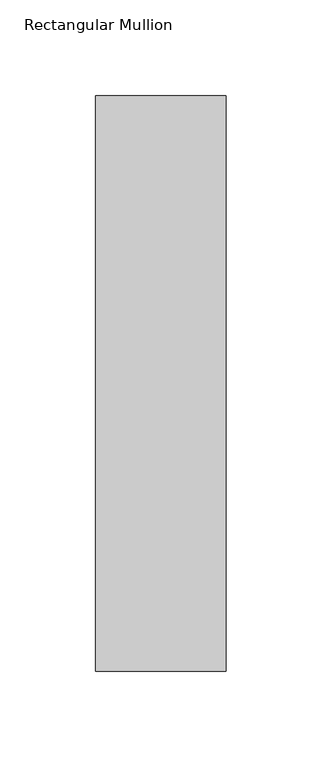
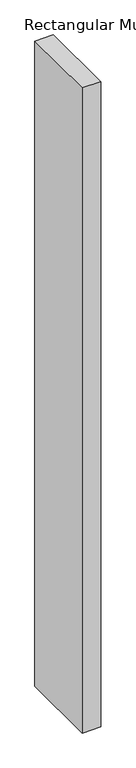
"""IFC4 building model written with IfcOpenShell, lengths in millimetres: member geometry, Rectangular Mullion : DucoSun Cubic Design louvre 300."""

from ifc_helpers import new_model, si_unit, frame, origin, place, context, project, spatial, polyline, outline, extrude, source, transform, mapped, element, save


def rectangular_mullion_085ac4ea(model_context):
    return source(origin(), model_context, "Body", "SweptSolid", [
        extrude(outline(polyline([(-68.0, 300.0), (0.0, 300.0), (0.0, 0.0), (-68.0, 0.0), (-68.0, 300.0)])), frame((0.0, 0.0, -2500.0), z_axis=(0.0, 0.0, 1.0), x_axis=(1.0, 0.0, 0.0)), (0.0, 0.0, 1.0), 2500.0),
    ])


if __name__ == "__main__":
    model = new_model("IFC4")
    model_context = context("Model", 3, world=origin())
    ifc_project = project(units=[si_unit("LENGTHUNIT", "METRE", prefix="MILLI")], contexts=[model_context])
    site = spatial("IfcSite", under=ifc_project)
    building = spatial("IfcBuilding", under=site)
    placement = place(None, origin())
    rectangular_mullion_shape = rectangular_mullion_085ac4ea(model_context)
    element("IfcMember", 1, ObjectType="Rectangular Mullion : DucoSun Cubic Design louvre 300", at=placement, inside=building, context=model_context, shape_type="MappedRepresentation", body=[
        mapped(rectangular_mullion_shape, transform((0.0, 0.0, 0.0), x_axis=(1.0, 0.0, 0.0), y_axis=(0.0, 1.0, 0.0), z_axis=(0.0, 0.0, 1.0))),
    ])
    save(model, "model.ifc")
